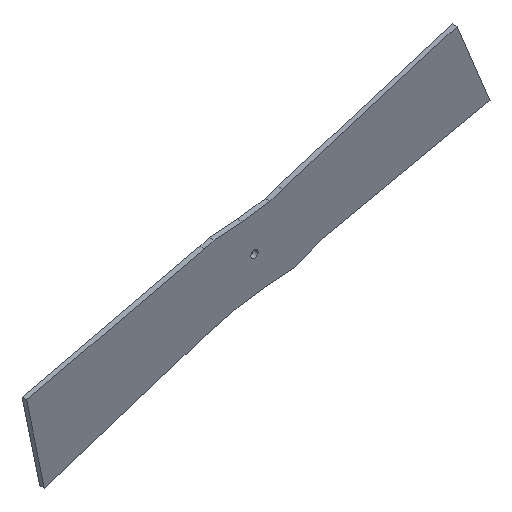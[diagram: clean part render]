
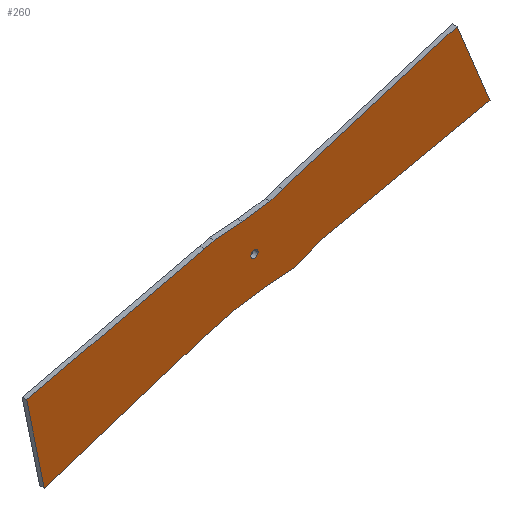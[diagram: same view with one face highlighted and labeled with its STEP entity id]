
A CAD part, isometric view. The second image highlights one B-rep face of the part: STEP entity #260.
In plain terms, the highlighted planar face has unit normal (0.001, -1, 0).
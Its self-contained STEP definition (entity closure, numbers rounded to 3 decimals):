
#93=AXIS2_PLACEMENT_3D('Plane Axis2P3D',#90,#91,#92) ;
#47=CARTESIAN_POINT('Line Origine',(-74.409,40.154,-2.362)) ;
#51=CARTESIAN_POINT('Vertex',(-25.145,40.183,9.187)) ;
#53=CARTESIAN_POINT('Vertex',(-123.674,40.124,-13.912)) ;
#90=CARTESIAN_POINT('Axis2P3D Location',(-0.022,40.195,-0.009)) ;
#95=CARTESIAN_POINT('Line Origine',(-118.802,40.122,-37.565)) ;
#99=CARTESIAN_POINT('Vertex',(-113.93,40.119,-61.219)) ;
#102=CARTESIAN_POINT('Line Origine',(-69.101,40.147,-46.874)) ;
#106=CARTESIAN_POINT('Vertex',(-24.273,40.175,-32.529)) ;
#109=CARTESIAN_POINT('Line Origine',(-15.148,40.18,-30.229)) ;
#113=CARTESIAN_POINT('Vertex',(-6.023,40.186,-27.929)) ;
#116=CARTESIAN_POINT('Line Origine',(1.629,40.19,-26.919)) ;
#120=CARTESIAN_POINT('Vertex',(9.282,40.195,-25.909)) ;
#123=CARTESIAN_POINT('Line Origine',(17.084,40.199,-25.318)) ;
#127=CARTESIAN_POINT('Vertex',(24.887,40.204,-24.727)) ;
#130=CARTESIAN_POINT('Line Origine',(32.619,40.208,-21.724)) ;
#134=CARTESIAN_POINT('Vertex',(40.35,40.213,-18.72)) ;
#137=CARTESIAN_POINT('Line Origine',(86.69,40.241,-8.751)) ;
#141=CARTESIAN_POINT('Vertex',(133.03,40.269,1.218)) ;
#144=CARTESIAN_POINT('Line Origine',(123.899,40.269,23.548)) ;
#148=CARTESIAN_POINT('Vertex',(114.768,40.269,45.878)) ;
#151=CARTESIAN_POINT('Line Origine',(66.433,40.239,31.057)) ;
#155=CARTESIAN_POINT('Vertex',(18.099,40.209,16.235)) ;
#158=CARTESIAN_POINT('Line Origine',(14.576,40.207,15.062)) ;
#162=CARTESIAN_POINT('Vertex',(11.053,40.204,13.889)) ;
#165=CARTESIAN_POINT('Line Origine',(3.417,40.2,12.833)) ;
#169=CARTESIAN_POINT('Vertex',(-4.219,40.196,11.777)) ;
#172=CARTESIAN_POINT('Line Origine',(-12.03,40.191,11.211)) ;
#176=CARTESIAN_POINT('Vertex',(-19.842,40.187,10.644)) ;
#179=CARTESIAN_POINT('Line Origine',(-22.493,40.185,9.916)) ;
#201=CARTESIAN_POINT('Control Point',(4.53,40.196,-7.063)) ;
#202=CARTESIAN_POINT('Control Point',(4.53,40.196,-7.271)) ;
#203=CARTESIAN_POINT('Control Point',(4.503,40.196,-7.479)) ;
#204=CARTESIAN_POINT('Control Point',(4.449,40.196,-7.682)) ;
#205=CARTESIAN_POINT('Control Point',(4.29,40.196,-8.07)) ;
#206=CARTESIAN_POINT('Control Point',(4.037,40.196,-8.404)) ;
#207=CARTESIAN_POINT('Control Point',(3.889,40.196,-8.553)) ;
#208=CARTESIAN_POINT('Control Point',(3.558,40.195,-8.811)) ;
#209=CARTESIAN_POINT('Control Point',(3.172,40.195,-8.975)) ;
#210=CARTESIAN_POINT('Control Point',(2.97,40.195,-9.031)) ;
#211=CARTESIAN_POINT('Control Point',(2.555,40.195,-9.09)) ;
#212=CARTESIAN_POINT('Control Point',(2.138,40.194,-9.041)) ;
#213=CARTESIAN_POINT('Control Point',(1.935,40.194,-8.99)) ;
#214=CARTESIAN_POINT('Control Point',(1.545,40.194,-8.835)) ;
#215=CARTESIAN_POINT('Control Point',(1.208,40.194,-8.585)) ;
#216=CARTESIAN_POINT('Control Point',(1.057,40.194,-8.44)) ;
#217=CARTESIAN_POINT('Control Point',(0.796,40.194,-8.112)) ;
#218=CARTESIAN_POINT('Control Point',(0.627,40.194,-7.728)) ;
#219=CARTESIAN_POINT('Control Point',(0.568,40.194,-7.526)) ;
#220=CARTESIAN_POINT('Control Point',(0.535,40.194,-7.309)) ;
#221=CARTESIAN_POINT('Control Point',(0.531,40.194,-7.092)) ;
#222=CARTESIAN_POINT('Control Point',(0.531,40.194,-7.083)) ;
#223=CARTESIAN_POINT('Control Point',(0.53,40.194,-7.073)) ;
#224=CARTESIAN_POINT('Control Point',(0.53,40.194,-7.063)) ;
#225=CARTESIAN_POINT('Vertex',(4.53,40.196,-7.063)) ;
#227=CARTESIAN_POINT('Vertex',(0.53,40.194,-7.063)) ;
#231=CARTESIAN_POINT('Control Point',(0.53,40.194,-7.063)) ;
#232=CARTESIAN_POINT('Control Point',(0.53,40.194,-6.856)) ;
#233=CARTESIAN_POINT('Control Point',(0.557,40.194,-6.648)) ;
#234=CARTESIAN_POINT('Control Point',(0.611,40.194,-6.445)) ;
#235=CARTESIAN_POINT('Control Point',(0.771,40.194,-6.057)) ;
#236=CARTESIAN_POINT('Control Point',(1.024,40.195,-5.723)) ;
#237=CARTESIAN_POINT('Control Point',(1.172,40.195,-5.573)) ;
#238=CARTESIAN_POINT('Control Point',(1.503,40.195,-5.316)) ;
#239=CARTESIAN_POINT('Control Point',(1.889,40.195,-5.152)) ;
#240=CARTESIAN_POINT('Control Point',(2.091,40.195,-5.095)) ;
#241=CARTESIAN_POINT('Control Point',(2.506,40.196,-5.037)) ;
#242=CARTESIAN_POINT('Control Point',(2.923,40.196,-5.086)) ;
#243=CARTESIAN_POINT('Control Point',(3.126,40.196,-5.137)) ;
#244=CARTESIAN_POINT('Control Point',(3.516,40.196,-5.292)) ;
#245=CARTESIAN_POINT('Control Point',(3.853,40.196,-5.541)) ;
#246=CARTESIAN_POINT('Control Point',(4.004,40.196,-5.687)) ;
#247=CARTESIAN_POINT('Control Point',(4.265,40.196,-6.015)) ;
#248=CARTESIAN_POINT('Control Point',(4.434,40.196,-6.399)) ;
#249=CARTESIAN_POINT('Control Point',(4.493,40.196,-6.601)) ;
#250=CARTESIAN_POINT('Control Point',(4.526,40.196,-6.817)) ;
#251=CARTESIAN_POINT('Control Point',(4.53,40.196,-7.035)) ;
#252=CARTESIAN_POINT('Control Point',(4.53,40.196,-7.044)) ;
#253=CARTESIAN_POINT('Control Point',(4.53,40.196,-7.054)) ;
#254=CARTESIAN_POINT('Control Point',(4.53,40.196,-7.063)) ;
#48=DIRECTION('Vector Direction',(-0.974,-0.001,-0.228)) ;
#91=DIRECTION('Axis2P3D Direction',(0.001,-1.,0.)) ;
#92=DIRECTION('Axis2P3D XDirection',(1.,0.001,0.)) ;
#96=DIRECTION('Vector Direction',(0.202,0.,-0.979)) ;
#103=DIRECTION('Vector Direction',(0.952,0.001,0.305)) ;
#110=DIRECTION('Vector Direction',(0.97,0.001,0.244)) ;
#117=DIRECTION('Vector Direction',(0.991,0.001,0.131)) ;
#124=DIRECTION('Vector Direction',(0.997,0.001,0.075)) ;
#131=DIRECTION('Vector Direction',(0.932,0.001,0.362)) ;
#138=DIRECTION('Vector Direction',(0.978,0.001,0.21)) ;
#145=DIRECTION('Vector Direction',(-0.378,0.,0.926)) ;
#152=DIRECTION('Vector Direction',(-0.956,-0.001,-0.293)) ;
#159=DIRECTION('Vector Direction',(-0.949,-0.001,-0.316)) ;
#166=DIRECTION('Vector Direction',(-0.991,-0.001,-0.137)) ;
#173=DIRECTION('Vector Direction',(-0.997,-0.001,-0.072)) ;
#180=DIRECTION('Vector Direction',(-0.964,-0.001,-0.265)) ;
#49=VECTOR('Line Direction',#48,1.) ;
#97=VECTOR('Line Direction',#96,1.) ;
#104=VECTOR('Line Direction',#103,1.) ;
#111=VECTOR('Line Direction',#110,1.) ;
#118=VECTOR('Line Direction',#117,1.) ;
#125=VECTOR('Line Direction',#124,1.) ;
#132=VECTOR('Line Direction',#131,1.) ;
#139=VECTOR('Line Direction',#138,1.) ;
#146=VECTOR('Line Direction',#145,1.) ;
#153=VECTOR('Line Direction',#152,1.) ;
#160=VECTOR('Line Direction',#159,1.) ;
#167=VECTOR('Line Direction',#166,1.) ;
#174=VECTOR('Line Direction',#173,1.) ;
#181=VECTOR('Line Direction',#180,1.) ;
#185=ORIENTED_EDGE('',*,*,#55,.T.) ;
#186=ORIENTED_EDGE('',*,*,#101,.T.) ;
#187=ORIENTED_EDGE('',*,*,#108,.T.) ;
#188=ORIENTED_EDGE('',*,*,#115,.T.) ;
#189=ORIENTED_EDGE('',*,*,#122,.T.) ;
#190=ORIENTED_EDGE('',*,*,#129,.T.) ;
#191=ORIENTED_EDGE('',*,*,#136,.T.) ;
#192=ORIENTED_EDGE('',*,*,#143,.T.) ;
#193=ORIENTED_EDGE('',*,*,#150,.T.) ;
#194=ORIENTED_EDGE('',*,*,#157,.T.) ;
#195=ORIENTED_EDGE('',*,*,#164,.T.) ;
#196=ORIENTED_EDGE('',*,*,#171,.T.) ;
#197=ORIENTED_EDGE('',*,*,#178,.T.) ;
#198=ORIENTED_EDGE('',*,*,#183,.T.) ;
#257=ORIENTED_EDGE('',*,*,#229,.T.) ;
#258=ORIENTED_EDGE('',*,*,#255,.T.) ;
#259=FACE_BOUND('',#256,.T.) ;
#260=ADVANCED_FACE('MANIFOLD_SOLID_BREP #40',(#199,#259),#94,.T.) ;
#200=B_SPLINE_CURVE_WITH_KNOTS('',5,(#201,#202,#203,#204,#205,#206,#207,#208,#209,#210,#211,#212,#213,#214,#215,#216,#217,#218,#219,#220,#221,#222,#223,#224),.UNSPECIFIED.,.F.,.U.,(6,3,3,3,3,3,3,6),(0.,1.47,2.939,4.409,5.879,7.348,8.818,8.886),.UNSPECIFIED.) ;
#230=B_SPLINE_CURVE_WITH_KNOTS('',5,(#231,#232,#233,#234,#235,#236,#237,#238,#239,#240,#241,#242,#243,#244,#245,#246,#247,#248,#249,#250,#251,#252,#253,#254),.UNSPECIFIED.,.F.,.U.,(6,3,3,3,3,3,3,6),(0.,1.47,2.939,4.409,5.879,7.348,8.818,8.886),.UNSPECIFIED.) ;
#55=EDGE_CURVE('',#52,#54,#50,.T.) ;
#101=EDGE_CURVE('',#54,#100,#98,.T.) ;
#108=EDGE_CURVE('',#100,#107,#105,.T.) ;
#115=EDGE_CURVE('',#107,#114,#112,.T.) ;
#122=EDGE_CURVE('',#114,#121,#119,.T.) ;
#129=EDGE_CURVE('',#121,#128,#126,.T.) ;
#136=EDGE_CURVE('',#128,#135,#133,.T.) ;
#143=EDGE_CURVE('',#135,#142,#140,.T.) ;
#150=EDGE_CURVE('',#142,#149,#147,.T.) ;
#157=EDGE_CURVE('',#149,#156,#154,.T.) ;
#164=EDGE_CURVE('',#156,#163,#161,.T.) ;
#171=EDGE_CURVE('',#163,#170,#168,.T.) ;
#178=EDGE_CURVE('',#170,#177,#175,.T.) ;
#183=EDGE_CURVE('',#177,#52,#182,.T.) ;
#229=EDGE_CURVE('',#226,#228,#200,.T.) ;
#255=EDGE_CURVE('',#228,#226,#230,.T.) ;
#184=EDGE_LOOP('',(#185,#186,#187,#188,#189,#190,#191,#192,#193,#194,#195,#196,#197,#198)) ;
#256=EDGE_LOOP('',(#257,#258)) ;
#199=FACE_OUTER_BOUND('',#184,.T.) ;
#50=LINE('Line',#47,#49) ;
#98=LINE('Line',#95,#97) ;
#105=LINE('Line',#102,#104) ;
#112=LINE('Line',#109,#111) ;
#119=LINE('Line',#116,#118) ;
#126=LINE('Line',#123,#125) ;
#133=LINE('Line',#130,#132) ;
#140=LINE('Line',#137,#139) ;
#147=LINE('Line',#144,#146) ;
#154=LINE('Line',#151,#153) ;
#161=LINE('Line',#158,#160) ;
#168=LINE('Line',#165,#167) ;
#175=LINE('Line',#172,#174) ;
#182=LINE('Line',#179,#181) ;
#94=PLANE('',#93) ;
#52=VERTEX_POINT('',#51) ;
#54=VERTEX_POINT('',#53) ;
#100=VERTEX_POINT('',#99) ;
#107=VERTEX_POINT('',#106) ;
#114=VERTEX_POINT('',#113) ;
#121=VERTEX_POINT('',#120) ;
#128=VERTEX_POINT('',#127) ;
#135=VERTEX_POINT('',#134) ;
#142=VERTEX_POINT('',#141) ;
#149=VERTEX_POINT('',#148) ;
#156=VERTEX_POINT('',#155) ;
#163=VERTEX_POINT('',#162) ;
#170=VERTEX_POINT('',#169) ;
#177=VERTEX_POINT('',#176) ;
#226=VERTEX_POINT('',#225) ;
#228=VERTEX_POINT('',#227) ;
